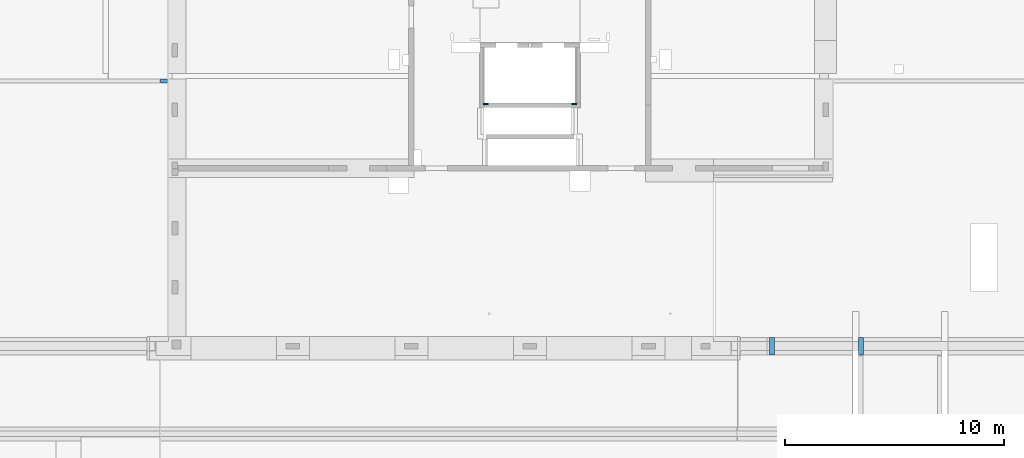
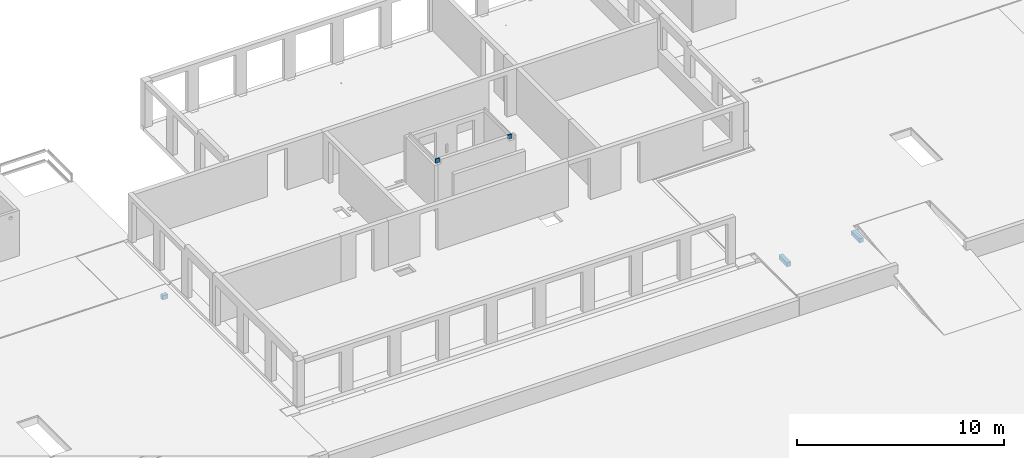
# One storey, part 25 of 36: 5 walls.
"""IFC2X3 building model written with IfcOpenShell, lengths in millimetres."""

from ifc_helpers import new_model, entity, si_unit, converted_unit, derived_unit, direction, frame, frame_2d, origin, origin_2d_with_axis, place, context, subcontext, project, spatial, rectangle, extrude, material, layer, layer_set, layer_usage, type_object, element, save


model = new_model("IFC2X3")

# Units and contexts
model_context = context("Model", 3, precision=0.01, world=origin(), true_north=direction((6.12303176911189e-17, 1.0)))
body_context = subcontext(model_context, "Body", "Model", "MODEL_VIEW")
ifc_project = project(units=[si_unit("LENGTHUNIT", "METRE", prefix="MILLI"), si_unit("AREAUNIT", "SQUARE_METRE"), si_unit("VOLUMEUNIT", "CUBIC_METRE"), converted_unit("PLANEANGLEUNIT", "DEGREE", entity("IfcRatioMeasure", 0.0174532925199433), si_unit("PLANEANGLEUNIT", "RADIAN"), dimensions=[0, 0, 0, 0, 0, 0, 0]), si_unit("MASSUNIT", "GRAM", prefix="KILO"), derived_unit("MASSDENSITYUNIT", [(si_unit("MASSUNIT", "GRAM", prefix="KILO"), 1), (si_unit("LENGTHUNIT", "METRE"), -3)]), si_unit("TIMEUNIT", "SECOND"), si_unit("FREQUENCYUNIT", "HERTZ"), si_unit("THERMODYNAMICTEMPERATUREUNIT", "DEGREE_CELSIUS"), derived_unit("THERMALTRANSMITTANCEUNIT", [(si_unit("MASSUNIT", "GRAM", prefix="KILO"), 1), (si_unit("THERMODYNAMICTEMPERATUREUNIT", "KELVIN"), -1), (si_unit("TIMEUNIT", "SECOND"), -3)]), derived_unit("VOLUMETRICFLOWRATEUNIT", [(si_unit("LENGTHUNIT", "METRE"), 3), (si_unit("TIMEUNIT", "SECOND"), -1)]), si_unit("ELECTRICCURRENTUNIT", "AMPERE"), si_unit("ELECTRICVOLTAGEUNIT", "VOLT"), si_unit("POWERUNIT", "WATT"), si_unit("FORCEUNIT", "NEWTON", prefix="KILO"), si_unit("ILLUMINANCEUNIT", "LUX"), si_unit("LUMINOUSFLUXUNIT", "LUMEN"), si_unit("LUMINOUSINTENSITYUNIT", "CANDELA"), derived_unit("USERDEFINED", [(si_unit("MASSUNIT", "GRAM", prefix="KILO"), -1), (si_unit("LENGTHUNIT", "METRE"), -2), (si_unit("TIMEUNIT", "SECOND"), 3), (si_unit("LUMINOUSFLUXUNIT", "LUMEN"), 1)]), derived_unit("LINEARVELOCITYUNIT", [(si_unit("LENGTHUNIT", "METRE"), 1), (si_unit("TIMEUNIT", "SECOND"), -1)]), si_unit("PRESSUREUNIT", "PASCAL"), derived_unit("USERDEFINED", [(si_unit("LENGTHUNIT", "METRE"), -2), (si_unit("MASSUNIT", "GRAM", prefix="KILO"), 1), (si_unit("TIMEUNIT", "SECOND"), -2)])], contexts=[model_context])

# Site, building, storey
site_placement = place(None, origin())
site = spatial("IfcSite", under=ifc_project, at=site_placement, Name="Default", CompositionType="ELEMENT")
building_placement = place(site_placement, origin())
building = spatial("IfcBuilding", under=site, at=building_placement, Name="niet gebruiken", CompositionType="ELEMENT")
storey_placement = place(building_placement, frame((0.0, 0.0, 12600.0)))
storey = spatial("IfcBuildingStorey", under=building, at=storey_placement, Name="04 vierde verdieping", CompositionType="ELEMENT", Elevation=12600.0)

# Walls
ifc_material_1 = material(Name="NLRS_f2_beton ihwg")
wall_type_1 = type_object("IfcWallType", Name="NLRS_21.21_SF_WPB_oplegnok ihwg beton_gen:200x250", PredefinedType="NOTDEFINED", material=ifc_material_1)
wall_1_placement = place(storey_placement, frame((74970.0, 40861.0, -895.0)))
element("IfcWall", 1, at=wall_1_placement, inside=storey, type_object=wall_type_1, material=ifc_material_1, Name="NLRS_21.21_SF_WPB_oplegnok ihwg beton_gen:200x250", ObjectType="NLRS_21.21_SF_WPB_oplegnok ihwg beton_gen:200x250", context=body_context, shape_type="SweptSolid", body=[
    extrude(rectangle(XDim=305.000000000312, YDim=199.999999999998, at=frame_2d((4.33431068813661e-12, 4.33431068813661e-12), x_axis=(1.0, 0.0))), frame((152.500000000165, 100.0, 0.0)), (0.0, 0.0, 1.0), 250.000000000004),
])
ifc_material_2 = material(Name="NLRS_f2_beton prefab")
wall_type_2 = type_object("IfcWallType", Name="NLRS_21.21_SF_WPB_oplegnok prefabbeton_gen:220x250", PredefinedType="NOTDEFINED", material=ifc_material_2)
wall_2_placement = place(storey_placement, frame((106775.0, 28481.0, -1160.0), z_axis=(0.0, 0.0, 1.0), x_axis=(0.0, 1.0, 0.0)))
element("IfcWall", 2, at=wall_2_placement, inside=storey, type_object=wall_type_2, material=ifc_material_2, Name="NLRS_21.21_SF_WPB_oplegnok prefabbeton_gen:220x250", ObjectType="NLRS_21.21_SF_WPB_oplegnok prefabbeton_gen:220x250", context=body_context, shape_type="SweptSolid", body=[
    extrude(rectangle(XDim=220.000000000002, YDim=800.0, at=frame_2d((1.73301373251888e-11, 0.0), x_axis=(1.0, 0.0))), frame((400.0, -110.0, 0.0), z_axis=(0.0, 0.0, 1.0), x_axis=(0.0, -1.0, 0.0)), (0.0, 0.0, 1.0), 250.000000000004),
])
wall_3_placement = place(storey_placement, frame((102725.0, 28481.0, -1160.0), z_axis=(0.0, 0.0, 1.0), x_axis=(0.0, 1.0, 0.0)))
element("IfcWall", 3, at=wall_3_placement, inside=storey, type_object=wall_type_2, material=ifc_material_2, Name="NLRS_21.21_SF_WPB_oplegnok prefabbeton_gen:220x250", ObjectType="NLRS_21.21_SF_WPB_oplegnok prefabbeton_gen:220x250", context=body_context, shape_type="SweptSolid", body=[
    extrude(rectangle(XDim=220.000000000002, YDim=800.0, at=origin_2d_with_axis()), frame((400.0, -110.0, 0.0), z_axis=(0.0, 0.0, 1.0), x_axis=(0.0, -1.0, 0.0)), (0.0, 0.0, 1.0), 250.000000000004),
])
ifc_layer = layer(ifc_material_2, 60.0)
ifc_layer_set = layer_set([ifc_layer], Name="Basic Wall:NLRS_22.21_WA_beton prefab d=60_gen")
ifc_layer_usage_1 = layer_usage(ifc_layer_set, "AXIS2", "NEGATIVE", 30.0)
wall_type_3 = type_object("IfcWallType", Name="Basic Wall:NLRS_22.21_WA_beton prefab d=60_gen", PredefinedType="STANDARD", material=ifc_layer_set)
wall_4_placement = place(storey_placement, frame((89665.02321398, 39916.0, 2630.0)))
element("IfcWallStandardCase", 4, at=wall_4_placement, inside=storey, type_object=wall_type_3, material=ifc_layer_usage_1, Name="Basic Wall:NLRS_22.21_WA_beton prefab d=60_gen", ObjectType="Basic Wall:NLRS_22.21_WA_beton prefab d=60_gen", context=body_context, shape_type="SweptSolid", body=[
    extrude(rectangle(XDim=234.976753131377, YDim=60.0000000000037, at=frame_2d((117.488376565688, -4.12292422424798e-12), x_axis=(-1.0, 0.0))), origin(), (0.0, 0.0, 1.0), 250.000000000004),
])
ifc_layer_usage_2 = layer_usage(ifc_layer_set, "AXIS2", "POSITIVE", -30.0)
wall_5_placement = place(storey_placement, frame((93934.9767860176, 39916.0, 2630.0), z_axis=(0.0, 0.0, 1.0), x_axis=(-1.0, 0.0, 0.0)))
element("IfcWallStandardCase", 5, at=wall_5_placement, inside=storey, type_object=wall_type_3, material=ifc_layer_usage_2, Name="Basic Wall:NLRS_22.21_WA_beton prefab d=60_gen", ObjectType="Basic Wall:NLRS_22.21_WA_beton prefab d=60_gen", context=body_context, shape_type="SweptSolid", body=[
    extrude(rectangle(XDim=234.976753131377, YDim=60.0000000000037, at=frame_2d((117.488376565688, 4.12114786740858e-12), x_axis=(-1.0, 0.0))), origin(), (0.0, 0.0, 1.0), 250.000000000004),
])

save(model, "model.ifc")
